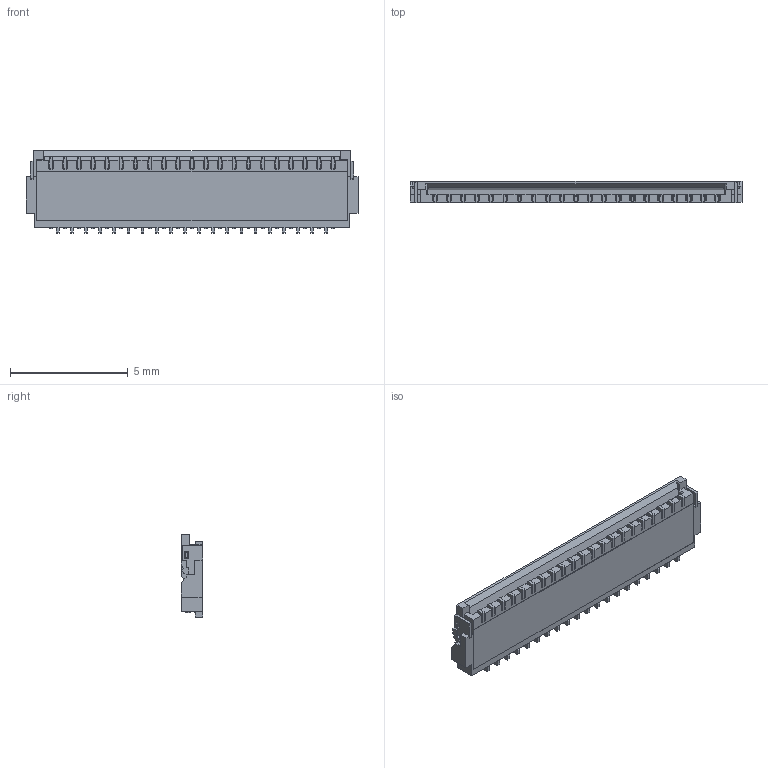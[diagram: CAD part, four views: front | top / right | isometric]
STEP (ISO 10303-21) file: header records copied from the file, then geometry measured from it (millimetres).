
FILE_DESCRIPTION((''),'2;1');
FILE_NAME('S10061122-411420HLF','2019-06-18T',('elderd'),(''),'CREO PARAMETRIC BY PTC INC, 2015200','CREO PARAMETRIC BY PTC INC, 2015200','');
FILE_SCHEMA(('CONFIG_CONTROL_DESIGN'));
Products named in the file (1): S10061122-411420HLF
Bounding box: 14.1 x 0.9 x 3.5 mm (x, y, z)
Surface area: 211.6 mm2 (no closed solid volume)
Topology: 0 solids, 1733 shells, 1733 faces, 10604 edges, 10604 vertices
Faces by surface type: plane 1175, cylinder 416, extrusion 126, sphere 16
Entity records: 105273 total; most frequent: CARTESIAN_POINT 29466, DIRECTION 13440, VERTEX_POINT 10604, ORIENTED_EDGE 10604, EDGE_CURVE 10604, VECTOR 8522, LINE 8396, AXIS2_PLACEMENT_3D 2459
